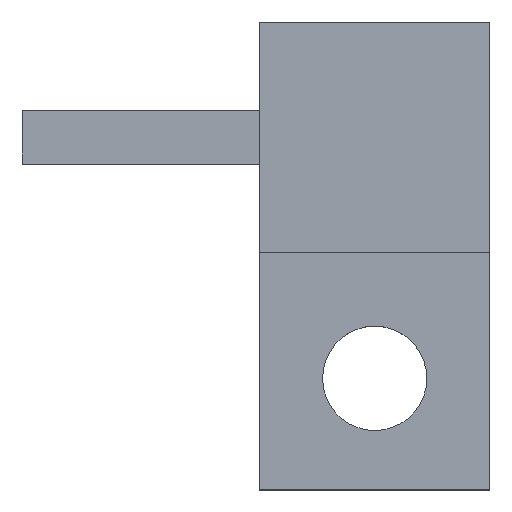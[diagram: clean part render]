
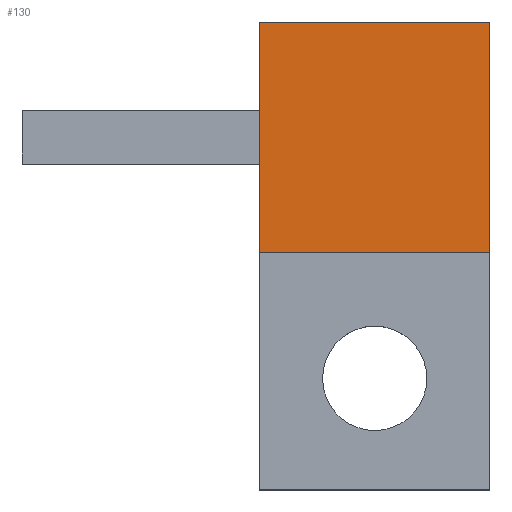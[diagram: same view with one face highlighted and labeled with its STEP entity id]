
A CAD part, top view. The second image highlights one B-rep face of the part: STEP entity #130.
In plain terms, the highlighted planar face has unit normal (0, 0, 1).
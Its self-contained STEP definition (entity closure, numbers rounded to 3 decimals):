
#130=ADVANCED_FACE('',(#248),#250,.T.);
#248=FACE_BOUND('',#249,.T.);
#249=EDGE_LOOP('',(#330,#331,#332,#333));
#250=PLANE('',#251);
#251=AXIS2_PLACEMENT_3D('',#252,#253,#254);
#252=CARTESIAN_POINT('',(0.,0.,3.7));
#253=DIRECTION('',(0.,0.,1.));
#254=DIRECTION('',(-1.,0.,0.));
#330=ORIENTED_EDGE('',*,*,#374,.T.);
#331=ORIENTED_EDGE('',*,*,#372,.T.);
#332=ORIENTED_EDGE('',*,*,#365,.T.);
#333=ORIENTED_EDGE('',*,*,#377,.T.);
#365=EDGE_CURVE('',#408,#406,#409,.T.);
#372=EDGE_CURVE('',#420,#408,#421,.T.);
#374=EDGE_CURVE('',#423,#420,#424,.T.);
#377=EDGE_CURVE('',#406,#423,#427,.T.);
#406=VERTEX_POINT('',#482);
#408=VERTEX_POINT('',#486);
#409=LINE('',#487,#488);
#420=VERTEX_POINT('',#512);
#421=LINE('',#513,#514);
#423=VERTEX_POINT('',#519);
#424=LINE('',#520,#521);
#427=LINE('',#529,#530);
#482=CARTESIAN_POINT('',(-3.2,1.2,3.7));
#486=CARTESIAN_POINT('',(-3.2,7.6,3.7));
#487=CARTESIAN_POINT('',(-3.2,7.6,3.7));
#488=VECTOR('',#489,1.);
#489=DIRECTION('',(0.,-1.,0.));
#512=CARTESIAN_POINT('',(3.2,7.6,3.7));
#513=CARTESIAN_POINT('',(3.2,7.6,3.7));
#514=VECTOR('',#515,1.);
#515=DIRECTION('',(-1.,0.,0.));
#519=CARTESIAN_POINT('',(3.2,1.2,3.7));
#520=CARTESIAN_POINT('',(3.2,1.2,3.7));
#521=VECTOR('',#522,1.);
#522=DIRECTION('',(0.,1.,0.));
#529=CARTESIAN_POINT('',(-3.2,1.2,3.7));
#530=VECTOR('',#531,1.);
#531=DIRECTION('',(1.,0.,0.));
